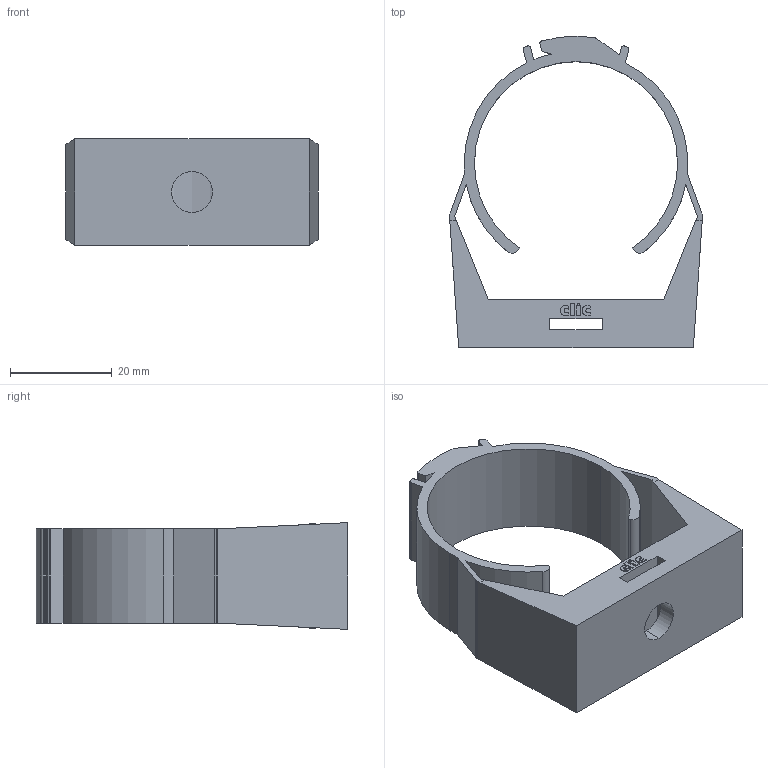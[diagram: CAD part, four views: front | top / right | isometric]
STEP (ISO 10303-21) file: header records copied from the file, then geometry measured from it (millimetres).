
FILE_DESCRIPTION (( 'STEP AP214' ), '1' );
FILE_NAME ('CLIC40.STEP', '2021-10-11T09:44:07', ( '' ), ( '' ), 'SwSTEP 2.0', 'SolidWorks 2021', '' );
FILE_SCHEMA (( 'AUTOMOTIVE_DESIGN' ));
Length unit declared in the file: millimetre
Products named in the file (1): CLIC40
Bounding box: 49.8 x 61.3 x 21 mm (x, y, z)
Volume: 15803.5 mm3; surface area: 10394.5 mm2
Topology: 1 solids, 1 shells, 118 faces, 324 edges, 216 vertices
Faces by surface type: plane 61, cylinder 29, bspline 28
Entity records: 3860 total; most frequent: CARTESIAN_POINT 1023, ORIENTED_EDGE 648, DIRECTION 508, EDGE_CURVE 324, VERTEX_POINT 216, LINE 210, VECTOR 210, AXIS2_PLACEMENT_3D 149
